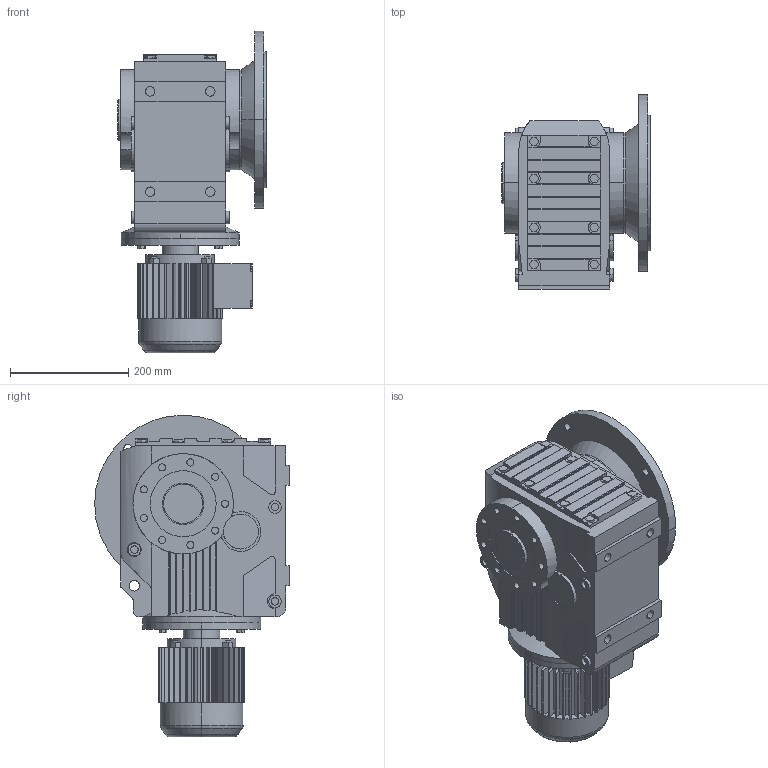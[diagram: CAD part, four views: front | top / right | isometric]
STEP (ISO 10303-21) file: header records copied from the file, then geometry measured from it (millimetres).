
FILE_DESCRIPTION(('Open CASCADE Model'),'2;1');
FILE_NAME('Open CASCADE Shape Model','2018-09-10T10:39:35',('Author'),( 'Open CASCADE'),'Open CASCADE STEP processor 6.3','Open CASCADE 6.3' ,'Unknown');
FILE_SCHEMA(('AUTOMOTIVE_DESIGN_CC2 { 1 2 10303 214 -1 1 5 4 }'));
Length unit declared in the file: millimetre
Products named in the file (5): 41_KAF77DT71D-A; KA37‵107_77.step; 萇儂_200-DT71D-193-257-145-122.step; す瑩諾陑粣K_77.step; 楊擘K_77.step
Assembly tree (4 placements, depth 2):
  41_KAF77DT71D-A
    KA37‵107_77.step
    萇儂_200-DT71D-193-257-145-122.step
    す瑩諾陑粣K_77.step
    楊擘K_77.step
Bounding box: 252.05 x 330 x 545 mm (x, y, z)
Volume: 16990985.6 mm3; surface area: 963557.5 mm2
Topology: 4 solids, 4 shells, 879 faces, 2280 edges, 1484 vertices
Faces by surface type: plane 563, cylinder 302, cone 10, torus 4
Entity records: 65150 total; most frequent: CARTESIAN_POINT 22372, DIRECTION 7166, ORIENTED_EDGE 4560, PCURVE 4560, DEFINITIONAL_REPRESENTATION 4560, LINE 3654, VECTOR 3654, EDGE_CURVE 2280
